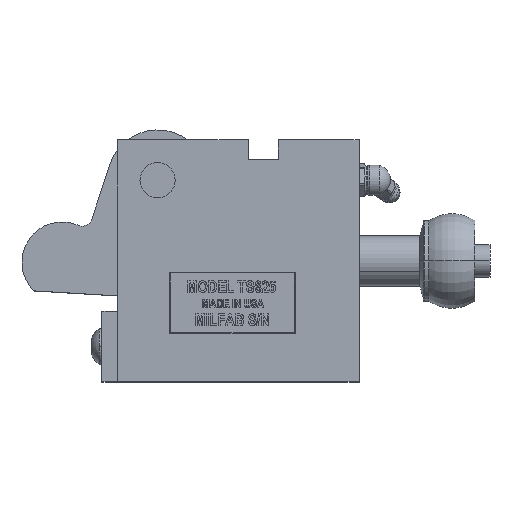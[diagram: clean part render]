
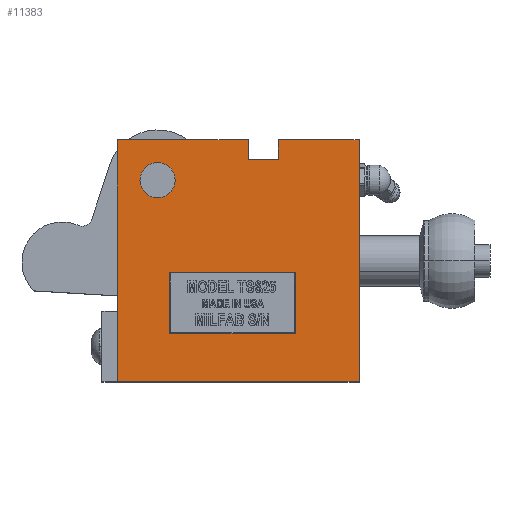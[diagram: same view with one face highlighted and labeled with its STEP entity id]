
A CAD part, top view. The second image highlights one B-rep face of the part: STEP entity #11383.
In plain terms, the highlighted planar face has unit normal (0, 0, 1).
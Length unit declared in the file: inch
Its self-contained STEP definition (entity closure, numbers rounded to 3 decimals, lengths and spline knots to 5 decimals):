
#5027 = CARTESIAN_POINT ( 'NONE',  ( 5.94264, 5.27171, 0. ) ) ;
#5641 = CARTESIAN_POINT ( 'NONE',  ( 6.37864, 5.27171, 0. ) ) ;
#5713 = DIRECTION ( 'NONE',  ( 1., 0., 0. ) ) ;
#5714 = DIRECTION ( 'NONE',  ( 0., 0., 1. ) ) ;
#5715 = CARTESIAN_POINT ( 'NONE',  ( 6.16064, 5.27171, 0. ) ) ;
#5716 = AXIS2_PLACEMENT_3D ( 'NONE', #5715, #5714, #5713 ) ;
#5717 = CIRCLE ( 'NONE', #5716, 0.218 ) ;
#9682 = VERTEX_POINT ( 'NONE', #19114 ) ;
#9771 = VERTEX_POINT ( 'NONE', #19124 ) ;
#9865 = EDGE_CURVE ( 'NONE', #9682, #9868, #19111, .T. ) ;
#9868 = VERTEX_POINT ( 'NONE', #19107 ) ;
#9904 = VERTEX_POINT ( 'NONE', #19461 ) ;
#9934 = EDGE_CURVE ( 'NONE', #9904, #9771, #19324, .T. ) ;
#10863 = ORIENTED_EDGE ( 'NONE', *, *, #11283, .F. ) ;
#11086 = VERTEX_POINT ( 'NONE', #21663 ) ;
#11108 = VERTEX_POINT ( 'NONE', #21770 ) ;
#11113 = EDGE_CURVE ( 'NONE', #9868, #11468, #21764, .T. ) ;
#11120 = EDGE_CURVE ( 'NONE', #11086, #11170, #21760, .T. ) ;
#11169 = EDGE_CURVE ( 'NONE', #11170, #9682, #21840, .T. ) ;
#11170 = VERTEX_POINT ( 'NONE', #21919 ) ;
#11253 = EDGE_CURVE ( 'NONE', #14348, #14145, #22012, .T. ) ;
#11255 = ORIENTED_EDGE ( 'NONE', *, *, #14470, .F. ) ;
#11257 = EDGE_LOOP ( 'NONE', ( #11316, #11319, #11357, #11358, #11359, #11422, #11424, #11508 ) ) ;
#11272 = ORIENTED_EDGE ( 'NONE', *, *, #11337, .F. ) ;
#11279 = EDGE_LOOP ( 'NONE', ( #11280, #11255 ) ) ;
#11280 = ORIENTED_EDGE ( 'NONE', *, *, #11253, .F. ) ;
#11283 = EDGE_CURVE ( 'NONE', #11309, #11386, #22110, .T. ) ;
#11309 = VERTEX_POINT ( 'NONE', #22099 ) ;
#11316 = ORIENTED_EDGE ( 'NONE', *, *, #9865, .T. ) ;
#11319 = ORIENTED_EDGE ( 'NONE', *, *, #11113, .T. ) ;
#11337 = EDGE_CURVE ( 'NONE', #11425, #11309, #22130, .T. ) ;
#11357 = ORIENTED_EDGE ( 'NONE', *, *, #11442, .T. ) ;
#11358 = ORIENTED_EDGE ( 'NONE', *, *, #11474, .T. ) ;
#11359 = ORIENTED_EDGE ( 'NONE', *, *, #9934, .T. ) ;
#11383 = ADVANCED_FACE ( 'NONE', ( #22199, #22198, #22197 ), #22196, .T. ) ;
#11384 = EDGE_LOOP ( 'NONE', ( #11385, #10863, #11272, #11426 ) ) ;
#11385 = ORIENTED_EDGE ( 'NONE', *, *, #11463, .F. ) ;
#11386 = VERTEX_POINT ( 'NONE', #22191 ) ;
#11422 = ORIENTED_EDGE ( 'NONE', *, *, #11461, .T. ) ;
#11424 = ORIENTED_EDGE ( 'NONE', *, *, #11120, .T. ) ;
#11425 = VERTEX_POINT ( 'NONE', #22185 ) ;
#11426 = ORIENTED_EDGE ( 'NONE', *, *, #11427, .F. ) ;
#11427 = EDGE_CURVE ( 'NONE', #11464, #11425, #22184, .T. ) ;
#11442 = EDGE_CURVE ( 'NONE', #11468, #11108, #22154, .T. ) ;
#11461 = EDGE_CURVE ( 'NONE', #9771, #11086, #22400, .T. ) ;
#11463 = EDGE_CURVE ( 'NONE', #11386, #11464, #22269, .T. ) ;
#11464 = VERTEX_POINT ( 'NONE', #22312 ) ;
#11468 = VERTEX_POINT ( 'NONE', #22291 ) ;
#11474 = EDGE_CURVE ( 'NONE', #11108, #9904, #22393, .T. ) ;
#11508 = ORIENTED_EDGE ( 'NONE', *, *, #11169, .T. ) ;
#14145 = VERTEX_POINT ( 'NONE', #5027 ) ;
#14348 = VERTEX_POINT ( 'NONE', #5641 ) ;
#14470 = EDGE_CURVE ( 'NONE', #14145, #14348, #5717, .T. ) ;
#19107 = CARTESIAN_POINT ( 'NONE',  ( 7.66064, 5.77171, 0. ) ) ;
#19108 = DIRECTION ( 'NONE',  ( -1., 0., 0. ) ) ;
#19109 = VECTOR ( 'NONE', #19108, 39.37008 ) ;
#19110 = CARTESIAN_POINT ( 'NONE',  ( 7.66064, 5.77171, 0. ) ) ;
#19111 = LINE ( 'NONE', #19110, #19109 ) ;
#19114 = CARTESIAN_POINT ( 'NONE',  ( 8.66064, 5.77171, 0. ) ) ;
#19124 = CARTESIAN_POINT ( 'NONE',  ( 5.66064, 5.77171, 0. ) ) ;
#19324 = LINE ( 'NONE', #19421, #19420 ) ;
#19419 = DIRECTION ( 'NONE',  ( -1., 0., 0. ) ) ;
#19420 = VECTOR ( 'NONE', #19419, 39.37008 ) ;
#19421 = CARTESIAN_POINT ( 'NONE',  ( 5.66064, 5.77171, 0. ) ) ;
#19461 = CARTESIAN_POINT ( 'NONE',  ( 7.28564, 5.77171, 0. ) ) ;
#21663 = CARTESIAN_POINT ( 'NONE',  ( 5.66064, 2.77171, 0. ) ) ;
#21757 = DIRECTION ( 'NONE',  ( 1., 0., 0. ) ) ;
#21758 = VECTOR ( 'NONE', #21757, 39.37008 ) ;
#21759 = CARTESIAN_POINT ( 'NONE',  ( 5.66064, 2.77171, 0. ) ) ;
#21760 = LINE ( 'NONE', #21759, #21758 ) ;
#21761 = DIRECTION ( 'NONE',  ( 0., -1., 0. ) ) ;
#21762 = VECTOR ( 'NONE', #21761, 39.37008 ) ;
#21763 = CARTESIAN_POINT ( 'NONE',  ( 7.66064, 5.53171, 0. ) ) ;
#21764 = LINE ( 'NONE', #21763, #21762 ) ;
#21770 = CARTESIAN_POINT ( 'NONE',  ( 7.28564, 5.53171, 0. ) ) ;
#21837 = DIRECTION ( 'NONE',  ( 0., 1., 0. ) ) ;
#21838 = VECTOR ( 'NONE', #21837, 39.37008 ) ;
#21839 = CARTESIAN_POINT ( 'NONE',  ( 8.66064, 2.77171, 0. ) ) ;
#21840 = LINE ( 'NONE', #21839, #21838 ) ;
#21919 = CARTESIAN_POINT ( 'NONE',  ( 8.66064, 2.77171, 0. ) ) ;
#22009 = DIRECTION ( 'NONE',  ( 0., 0., 1. ) ) ;
#22010 = CARTESIAN_POINT ( 'NONE',  ( 6.16064, 5.27171, 0. ) ) ;
#22011 = AXIS2_PLACEMENT_3D ( 'NONE', #22010, #22009, #22022 ) ;
#22012 = CIRCLE ( 'NONE', #22011, 0.218 ) ;
#22022 = DIRECTION ( 'NONE',  ( 1., 0., 0. ) ) ;
#22099 = CARTESIAN_POINT ( 'NONE',  ( 7.87064, 4.13171, 0. ) ) ;
#22110 = LINE ( 'NONE', #22121, #22148 ) ;
#22121 = CARTESIAN_POINT ( 'NONE',  ( 6.31064, 4.13171, 0. ) ) ;
#22127 = DIRECTION ( 'NONE',  ( 0., 1., 0. ) ) ;
#22128 = VECTOR ( 'NONE', #22127, 39.37008 ) ;
#22129 = CARTESIAN_POINT ( 'NONE',  ( 7.87064, 3.37171, 0. ) ) ;
#22130 = LINE ( 'NONE', #22129, #22128 ) ;
#22131 = DIRECTION ( 'NONE',  ( -1., 0., 0. ) ) ;
#22148 = VECTOR ( 'NONE', #22131, 39.37008 ) ;
#22151 = DIRECTION ( 'NONE',  ( -1., 0., 0. ) ) ;
#22152 = VECTOR ( 'NONE', #22151, 39.37008 ) ;
#22153 = CARTESIAN_POINT ( 'NONE',  ( 7.28564, 5.53171, 0. ) ) ;
#22154 = LINE ( 'NONE', #22153, #22152 ) ;
#22181 = DIRECTION ( 'NONE',  ( 1., 0., 0. ) ) ;
#22182 = VECTOR ( 'NONE', #22181, 39.37008 ) ;
#22183 = CARTESIAN_POINT ( 'NONE',  ( 6.31064, 3.37171, 0. ) ) ;
#22184 = LINE ( 'NONE', #22183, #22182 ) ;
#22185 = CARTESIAN_POINT ( 'NONE',  ( 7.87064, 3.37171, 0. ) ) ;
#22191 = CARTESIAN_POINT ( 'NONE',  ( 6.31064, 4.13171, 0. ) ) ;
#22192 = DIRECTION ( 'NONE',  ( 1., 0., 0. ) ) ;
#22193 = DIRECTION ( 'NONE',  ( 0., 0., 1. ) ) ;
#22194 = CARTESIAN_POINT ( 'NONE',  ( 8.66064, 5.77171, 0. ) ) ;
#22195 = AXIS2_PLACEMENT_3D ( 'NONE', #22194, #22193, #22192 ) ;
#22196 = PLANE ( 'NONE',  #22195 ) ;
#22197 = FACE_OUTER_BOUND ( 'NONE', #11257, .T. ) ;
#22198 = FACE_BOUND ( 'NONE', #11279, .T. ) ;
#22199 = FACE_BOUND ( 'NONE', #11384, .T. ) ;
#22269 = LINE ( 'NONE', #22376, #22375 ) ;
#22280 = DIRECTION ( 'NONE',  ( 0., -1., 0. ) ) ;
#22281 = VECTOR ( 'NONE', #22280, 39.37008 ) ;
#22282 = CARTESIAN_POINT ( 'NONE',  ( 5.66064, 2.77171, 0. ) ) ;
#22291 = CARTESIAN_POINT ( 'NONE',  ( 7.66064, 5.53171, 0. ) ) ;
#22312 = CARTESIAN_POINT ( 'NONE',  ( 6.31064, 3.37171, 0. ) ) ;
#22313 = DIRECTION ( 'NONE',  ( 0., -1., 0. ) ) ;
#22362 = DIRECTION ( 'NONE',  ( 0., 1., 0. ) ) ;
#22363 = VECTOR ( 'NONE', #22362, 39.37008 ) ;
#22364 = CARTESIAN_POINT ( 'NONE',  ( 7.28564, 5.77171, 0. ) ) ;
#22375 = VECTOR ( 'NONE', #22313, 39.37008 ) ;
#22376 = CARTESIAN_POINT ( 'NONE',  ( 6.31064, 3.37171, 0. ) ) ;
#22393 = LINE ( 'NONE', #22364, #22363 ) ;
#22400 = LINE ( 'NONE', #22282, #22281 ) ;
